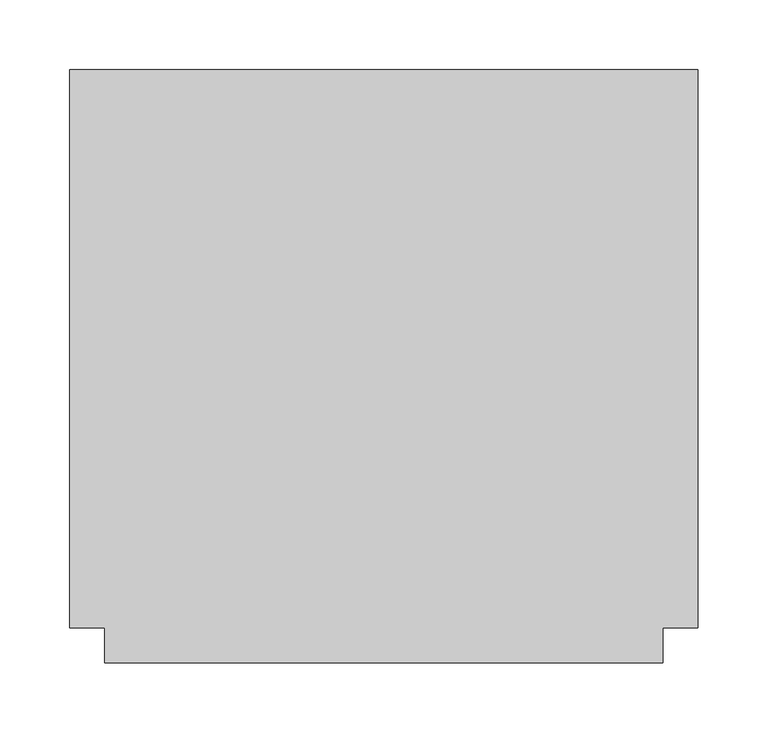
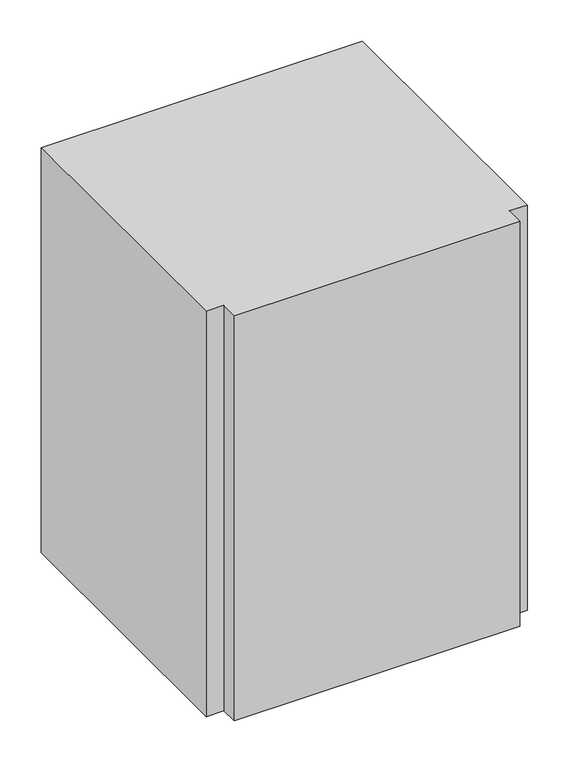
"""IFC4 building model written with IfcOpenShell, lengths in millimetres: duct fitting geometry, M_T retangular : Padrão."""

from ifc_helpers import new_model, si_unit, frame, origin, place, context, project, spatial, polyline, outline, extrude, source, transform, mapped, element, save


def duct_fitting_aacfcd7f(model_context):
    return source(origin(), model_context, "Body", "SweptSolid", [
        extrude(outline(polyline([(-225.0, -200.0), (-225.0, 200.0), (225.0, 200.0), (225.0, -200.0), (200.0, -200.0), (200.0, -225.0), (-200.0, -225.0), (-200.0, -200.0), (-225.0, -200.0)])), frame((0.0, 0.0, -300.0), z_axis=(0.0, 0.0, 1.0), x_axis=(1.0, 0.0, 0.0)), (0.0, 0.0, 1.0), 600.0),
    ])


if __name__ == "__main__":
    model = new_model("IFC4")
    model_context = context("Model", 3, world=origin())
    ifc_project = project(units=[si_unit("LENGTHUNIT", "METRE", prefix="MILLI")], contexts=[model_context])
    site = spatial("IfcSite", under=ifc_project)
    building = spatial("IfcBuilding", under=site)
    placement = place(None, origin())
    duct_fitting_shape = duct_fitting_aacfcd7f(model_context)
    element("IfcDuctFitting", 1, ObjectType="M_T retangular : Padrão", at=placement, inside=building, context=model_context, shape_type="MappedRepresentation", body=[
        mapped(duct_fitting_shape, transform((0.0, 0.0, 0.0), x_axis=(1.0, 0.0, 0.0), y_axis=(0.0, 1.0, 0.0), z_axis=(0.0, 0.0, 1.0))),
    ])
    save(model, "model.ifc")
